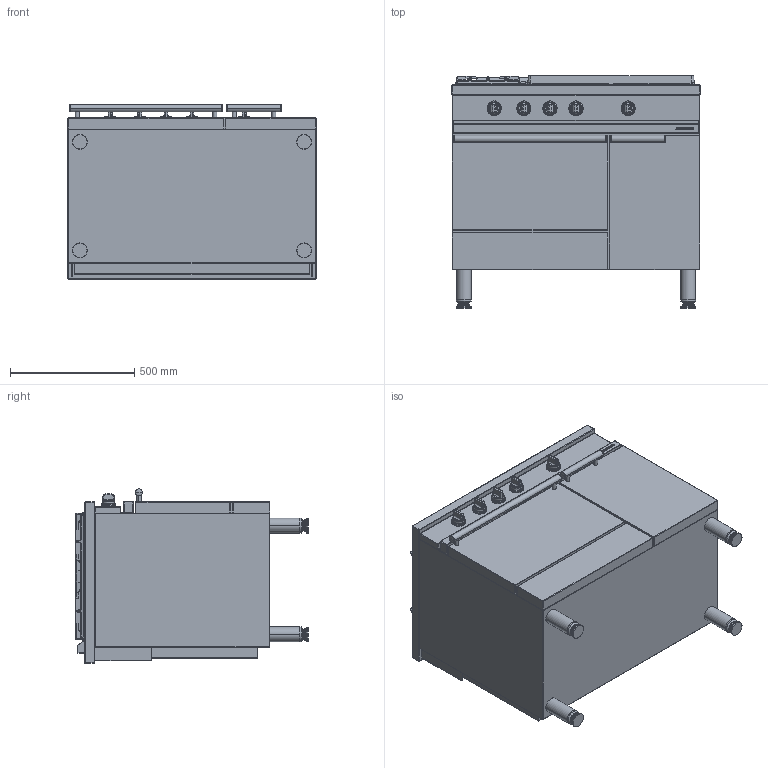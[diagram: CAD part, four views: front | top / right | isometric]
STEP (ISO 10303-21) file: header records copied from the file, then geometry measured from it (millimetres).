
FILE_DESCRIPTION((''),'2;1');
FILE_NAME('CG1041GAGCF_EXPORT_STEP_ASM','2017-11-22T',('r.avril'),(''),'PRO/ENGINEER BY PARAMETRIC TECHNOLOGY CORPORATION, 2014200','PRO/ENGINEER BY PARAMETRIC TECHNOLOGY CORPORATION, 2014200','');
FILE_SCHEMA(('AP203_CONFIGURATION_CONTROLLED_3D_DESIGN_OF_MECHANICAL_PARTS_AND_ASSEMBLIES_MIM_LF { 1 0 10303 403 2 1 2 }'));
Products named in the file (14): FOURNEAUX_AMB_1051A_EXPORT_STEP; TABLE_1000_CLASSIQUE; 3KW; 5KW; 1_5KW; 65062009; 65149005; 65062012; 90000894_ASM; 6537024; 90000487_ASM; TABLE_1000_GCF_ASM; MANETTE_AMB_EXPORT_STEP; CG1041GAGCF_EXPORT_STEP_ASM
Assembly tree (27 placements, depth 4):
  CG1041GAGCF_EXPORT_STEP_ASM
    FOURNEAUX_AMB_1051A_EXPORT_STEP
    TABLE_1000_GCF_ASM
      TABLE_1000_CLASSIQUE
      3KW  x2
      5KW
      1_5KW
      90000894_ASM
        65062009
        65149005  x6
        65062012
      90000487_ASM
        6537024
        65149005  x4
    MANETTE_AMB_EXPORT_STEP  x5
Bounding box: 1000 x 936 x 703 mm (x, y, z)
Volume: 457832312.6 mm3; surface area: 8242373.2 mm2
Topology: 42 solids, 60 shells, 3174 faces, 8588 edges, 5869 vertices
Faces by surface type: plane 1221, cylinder 856, bspline 574, cone 185, sphere 160, torus 158, extrusion 20
Entity records: 136077 total; most frequent: CARTESIAN_POINT 40744, ORIENTED_EDGE 13720, DIRECTION 12557, EDGE_CURVE 7084, PRESENTATION_STYLE_ASSIGNMENT 7046, STYLED_ITEM 7046, CURVE_STYLE 6192, VERTEX_POINT 4434
